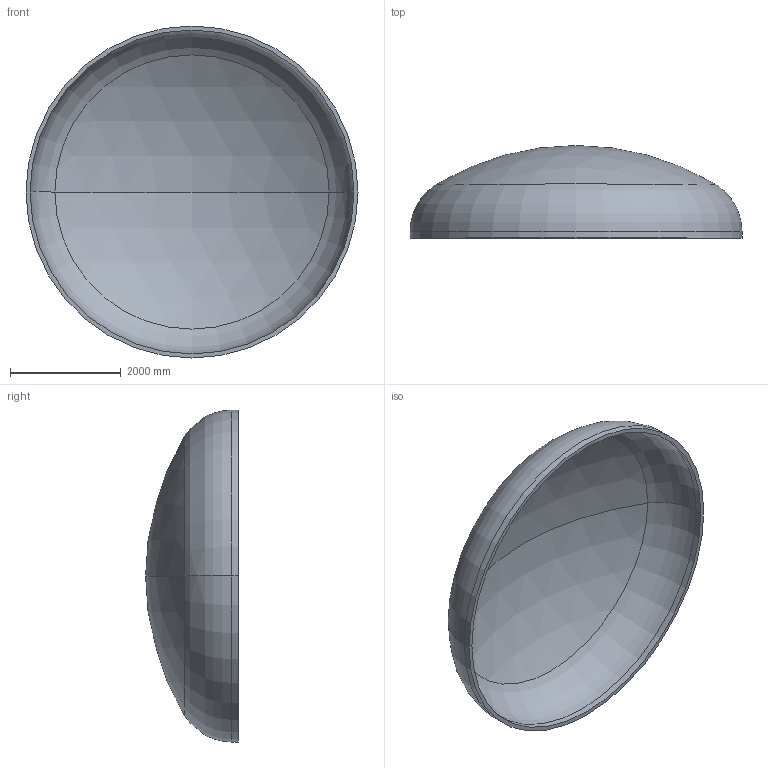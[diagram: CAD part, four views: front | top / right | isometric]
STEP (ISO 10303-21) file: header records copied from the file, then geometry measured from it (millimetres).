
FILE_DESCRIPTION (( 'STEP AP203' ), '1' );
FILE_NAME ('DIN 28013 Korbbogenform_-_Boden DIN 28013 - 6000 x 120 - I - s=74.step', '2016-07-04T10:38:03', ( '' ), ( '' ), 'SwSTEP 2.0', 'SolidWorks 2013', '' );
FILE_SCHEMA (( 'CONFIG_CONTROL_DESIGN' ));
Length unit declared in the file: millimetre
Products named in the file (1): DIN 28013 Korbbogenform_-_Boden DIN 28013 - 6000 x 120 - I - s=74
Bounding box: 6000 x 1675.62 x 6000 mm (x, y, z)
Volume: 3016866648.2 mm3; surface area: 82926038.5 mm2
Topology: 1 solids, 1 shells, 13 faces, 24 edges, 14 vertices
Faces by surface type: torus 4, cylinder 4, sphere 4, plane 1
Entity records: 407 total; most frequent: DIRECTION 72, CARTESIAN_POINT 52, ORIENTED_EDGE 48, AXIS2_PLACEMENT_3D 34, EDGE_CURVE 24, CIRCLE 20, EDGE_LOOP 14, VERTEX_POINT 14
